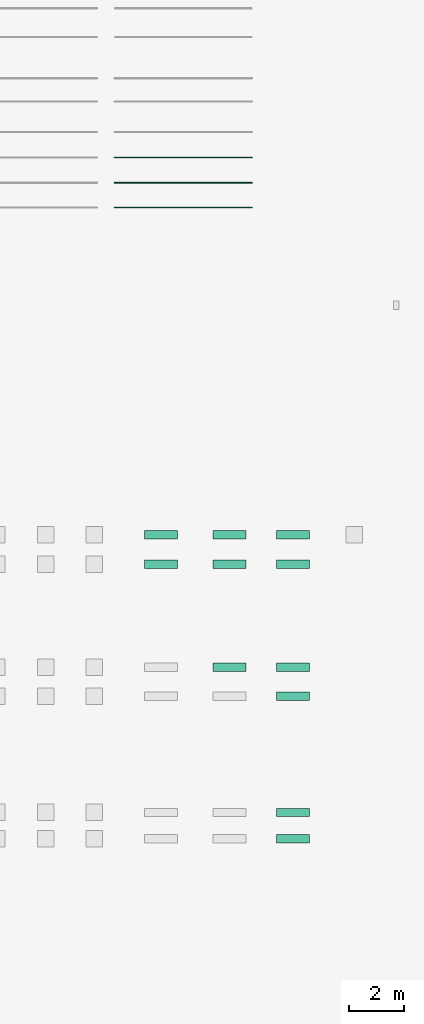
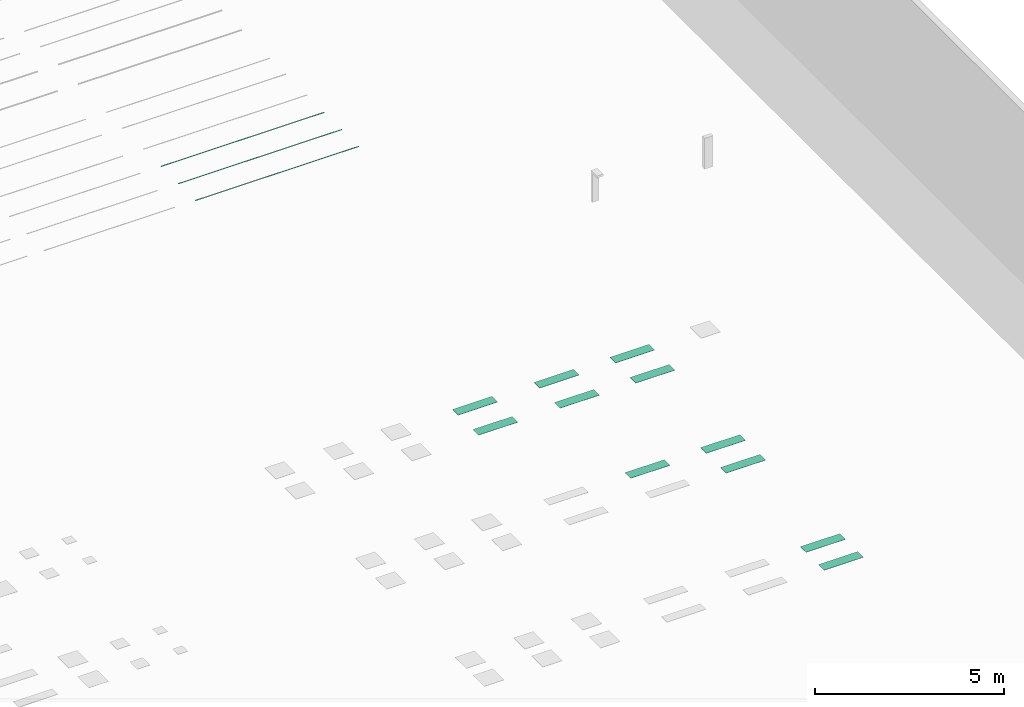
# One storey, part 9 of 197: 14 flow terminals.
"""IFC2X3 building model written with IfcOpenShell, lengths in metres."""

import ifcopenshell
import ifcopenshell.guid

model = None  # the IFC model being written
_history = None  # IfcOwnerHistory: only IFC2X3 demands one
_inside = {}  # id of a spatial element -> (the spatial element, [elements in it])
_under = {}  # id of a project, library or spatial element -> (it, [spatial elements below it])
_declared = {}  # id of a project -> (the project, [libraries it declares])
_typed = {}  # id of a type object -> (the type object, [elements of that type])
_made_of = {}  # id of a material, layer set ... -> (it, [elements and type objects made of it])


def new_model(schema):
    """Start an empty IFC model of exactly this schema.

    Asked for "IFC4X3", IfcOpenShell would pick the latest addendum, in which some entities
    have other attributes; the version numbers below select the first issue.
    IFC2X3 requires an IfcOwnerHistory on every rooted entity: one is made here for all.
    """
    global model, _history
    if schema == "IFC4X3":
        model = ifcopenshell.file(schema_version=(4, 3, 0, 0))
    else:
        model = ifcopenshell.file(schema=schema)
    _inside.clear()
    _under.clear()
    _declared.clear()
    _typed.clear()
    _made_of.clear()
    _history = None
    if model.schema == "IFC2X3":
        org = make("IfcOrganization", Name="unknown")
        user = make(
            "IfcPersonAndOrganization",
            ThePerson=make("IfcPerson", FamilyName="unknown"),
            TheOrganization=org,
        )
        app = make(
            "IfcApplication",
            ApplicationDeveloper=org,
            Version="unknown",
            ApplicationFullName="unknown",
            ApplicationIdentifier="unknown",
        )
        _history = make(
            "IfcOwnerHistory",
            OwningUser=user,
            OwningApplication=app,
            ChangeAction="ADDED",
            CreationDate=0,
        )
    return model


def make(cls, **values):
    """One entity of the class cls with the attributes given. An attribute that is None is left unset."""
    return model.create_entity(
        cls, **{name: value for name, value in values.items() if value is not None}
    )


def entity(cls, *values):
    """Any entity or typed value of the class cls, its attributes in the order of the schema. None: left unset."""
    e = model.create_entity(cls)
    for i, value in enumerate(values):
        if value is not None:
            e[i] = value
    return e


def rooted(cls, **values):
    """An entity with a GlobalId (a new one), such as an element, a storey or a relation."""
    return make(cls, GlobalId=ifcopenshell.guid.new(), OwnerHistory=_history, **values)


def si_unit(unit_type, name, prefix=None):
    """IfcSIUnit, for example si_unit("LENGTHUNIT", "METRE", prefix="MILLI")."""
    return make("IfcSIUnit", UnitType=unit_type, Prefix=prefix, Name=name)


def converted_unit(unit_type, name, factor, base, dimensions=None, offset=None):
    """IfcConversionBasedUnit, such as the inch: factor (a typed value) times the base unit."""
    return make(
        "IfcConversionBasedUnit"
        if offset is None
        else "IfcConversionBasedUnitWithOffset",
        ConversionOffset=offset,
        Dimensions=None
        if dimensions is None
        else entity("IfcDimensionalExponents", *dimensions),
        UnitType=unit_type,
        Name=name,
        ConversionFactor=make(
            "IfcMeasureWithUnit", ValueComponent=factor, UnitComponent=base
        ),
    )


def assignment(units):
    """IfcUnitAssignment: the units of a project."""
    return None if units is None else make("IfcUnitAssignment", Units=units)


def point(xyz):
    """IfcCartesianPoint."""
    return None if xyz is None else make("IfcCartesianPoint", Coordinates=xyz)


def direction(xyz):
    """IfcDirection."""
    return None if xyz is None else make("IfcDirection", DirectionRatios=xyz)


def frame(location, z_axis=None, x_axis=None):
    """IfcAxis2Placement3D, a coordinate frame: its origin and axes. An axis left out is left unset."""
    return make(
        "IfcAxis2Placement3D",
        Location=point(location),
        Axis=direction(z_axis),
        RefDirection=direction(x_axis),
    )


def frame_2d(location, x_axis=None):
    """IfcAxis2Placement2D, a coordinate frame in the plane: its origin and x axis."""
    return make(
        "IfcAxis2Placement2D", Location=point(location), RefDirection=direction(x_axis)
    )


def origin():
    """The frame at (0, 0, 0) with its axes left unset."""
    return frame((0.0, 0.0, 0.0))


def origin_2d_with_axis():
    """The frame at (0, 0) in the plane with the x axis (1, 0) written out."""
    return frame_2d((0.0, 0.0), x_axis=(1.0, 0.0))


def place(relative_to, where):
    """IfcLocalPlacement: puts the frame where relative to a parent placement (None: the world)."""
    return make(
        "IfcLocalPlacement", PlacementRelTo=relative_to, RelativePlacement=where
    )


def context(
    kind, dimensions, precision=None, world=None, true_north=None, identifier=None
):
    """IfcGeometricRepresentationContext, for example the 3D "Model" context."""
    return make(
        "IfcGeometricRepresentationContext",
        ContextIdentifier=identifier,
        ContextType=kind,
        CoordinateSpaceDimension=dimensions,
        Precision=precision,
        WorldCoordinateSystem=world,
        TrueNorth=true_north,
    )


def subcontext(parent, identifier, kind, view, scale=None):
    """IfcGeometricRepresentationSubContext, for example "Body" below "Model"."""
    return make(
        "IfcGeometricRepresentationSubContext",
        ContextIdentifier=identifier,
        ContextType=kind,
        ParentContext=parent,
        TargetScale=scale,
        TargetView=view,
    )


def project(units=None, contexts=None):
    """IfcProject with its units and contexts."""
    return rooted(
        "IfcProject",
        Name="project",
        RepresentationContexts=contexts,
        UnitsInContext=assignment(units),
    )


def spatial(cls, under=None, at=None, **own):
    """A site, building, storey or space (cls), placed at a placement, below another one or the project."""
    s = rooted(cls, ObjectPlacement=at, **own)
    if under is not None:
        _under.setdefault(under.id(), (under, []))[1].append(s)
    return s


def polyline(points):
    """IfcPolyline through the points."""
    return make("IfcPolyline", Points=[point(p) for p in points])


def profile(cls, at=None, kind="AREA", **sizes):
    """A parametric profile (cls). Its sizes go by their IFC names, for example OverallWidth=200.0."""
    return make(cls, ProfileType=kind, Position=at, **sizes)


def rectangle(**sizes):
    """IfcRectangleProfileDef."""
    return profile("IfcRectangleProfileDef", **sizes)


def circle(**sizes):
    """IfcCircleProfileDef."""
    return profile("IfcCircleProfileDef", **sizes)


def outline(outer, holes=None, kind="AREA"):
    """IfcArbitraryClosedProfileDef: a profile drawn as a closed curve; with holes, ...WithVoids."""
    if holes is None:
        return make("IfcArbitraryClosedProfileDef", ProfileType=kind, OuterCurve=outer)
    return make(
        "IfcArbitraryProfileDefWithVoids",
        ProfileType=kind,
        OuterCurve=outer,
        InnerCurves=holes,
    )


def extrude(swept, where, along, depth):
    """IfcExtrudedAreaSolid: the profile swept, set in the frame where, extruded along a direction by depth."""
    return make(
        "IfcExtrudedAreaSolid",
        SweptArea=swept,
        Position=where,
        ExtrudedDirection=direction(along),
        Depth=depth,
    )


def shape(context_of_items, identifier, shape_type, items):
    """IfcShapeRepresentation: the items that make up one representation, for example the "Body"."""
    return make(
        "IfcShapeRepresentation",
        ContextOfItems=context_of_items,
        RepresentationIdentifier=identifier,
        RepresentationType=shape_type,
        Items=items,
    )


def source(mapping_origin, context_of_items, identifier, shape_type, items):
    """IfcRepresentationMap: a shape defined once, which mapped items show again and again."""
    return make(
        "IfcRepresentationMap",
        MappingOrigin=mapping_origin,
        MappedRepresentation=shape(context_of_items, identifier, shape_type, items),
    )


def transform(
    local_origin,
    x_axis=None,
    y_axis=None,
    z_axis=None,
    scale=None,
    scale2=None,
    scale3=None,
    uniform=True,
):
    """IfcCartesianTransformationOperator3D, or its non-uniform kind. x_axis, y_axis, z_axis: its Axis1, 2, 3."""
    if uniform:
        return make(
            "IfcCartesianTransformationOperator3D",
            Axis1=direction(x_axis),
            Axis2=direction(y_axis),
            LocalOrigin=point(local_origin),
            Scale=scale,
            Axis3=direction(z_axis),
        )
    return make(
        "IfcCartesianTransformationOperator3DnonUniform",
        Axis1=direction(x_axis),
        Axis2=direction(y_axis),
        LocalOrigin=point(local_origin),
        Scale=scale,
        Axis3=direction(z_axis),
        Scale2=scale2,
        Scale3=scale3,
    )


def mapped(mapping_source, mapping_target):
    """IfcMappedItem: shows the shape of a source again, moved by a transform."""
    return make(
        "IfcMappedItem", MappingSource=mapping_source, MappingTarget=mapping_target
    )


def material(Name=None, Category=None):
    """IfcMaterial."""
    return make("IfcMaterial", Name=Name, Category=Category)


def material_list(materials):
    """IfcMaterialList."""
    return make("IfcMaterialList", Materials=materials)


def made_of(thing, what):
    """Note that an element or type object is made of a material, layer set ...; save() writes the relation."""
    if what is not None:
        _made_of.setdefault(what.id(), (what, []))[1].append(thing)
    return thing


def type_object(cls, material=None, **own):
    """A type object (cls), such as IfcWallType, which elements share."""
    return made_of(rooted(cls, **own), material)


def type_shapes(of_type, sources):
    """Give a type object the sources (RepresentationMaps) that its elements show as mapped items."""
    of_type.RepresentationMaps = sources


def element(
    cls,
    number,
    at=None,
    inside=None,
    cuts=None,
    type_object=None,
    material=None,
    context=None,
    identifier="Body",
    shape_type=None,
    held_by="IfcProductDefinitionShape",
    body=None,
    shapes=None,
    **own,
):
    """One element of the class cls, such as IfcWall. Its Tag is "e" and its number.

    at: its placement. inside: the storey or other place that contains it. cuts: it is an
    opening in that element (IfcRelVoidsElement). A single representation is given by context,
    identifier, shape_type and body (its items); several are given by shapes. held_by: the class
    of the entity that holds the representations. save() writes the other relations.
    """
    e = rooted(cls, Tag="e%d" % number, ObjectPlacement=at, **own)
    if body is not None:
        shapes = [shape(context, identifier, shape_type, body)]
    if shapes is not None:
        e.Representation = make(held_by, Representations=shapes)
    if inside is not None:
        _inside.setdefault(inside.id(), (inside, []))[1].append(e)
    if cuts is not None:
        rooted(
            "IfcRelVoidsElement", RelatingBuildingElement=cuts, RelatedOpeningElement=e
        )
    if type_object is not None:
        _typed.setdefault(type_object.id(), (type_object, []))[1].append(e)
    return made_of(e, material)


def aggregate(whole, parts):
    """IfcRelAggregates: a whole, such as a stair, and the parts it consists of."""
    return rooted("IfcRelAggregates", RelatingObject=whole, RelatedObjects=parts)


def save(model, path):
    """Write the relations noted so far, then the file.

    IfcRelAggregates (storeys below a building ...), IfcRelContainedInSpatialStructure (elements
    in a storey), IfcRelDefinesByType, IfcRelAssociatesMaterial and IfcRelDeclares: one each for
    every whole, place, type object, material and project.
    """
    for whole, parts in _under.values():
        aggregate(whole, parts)
    for where, things in _inside.values():
        rooted(
            "IfcRelContainedInSpatialStructure",
            RelatedElements=things,
            RelatingStructure=where,
        )
    for kind, things in _typed.values():
        rooted("IfcRelDefinesByType", RelatedObjects=things, RelatingType=kind)
    for what, things in _made_of.values():
        rooted("IfcRelAssociatesMaterial", RelatedObjects=things, RelatingMaterial=what)
    for by, libraries in _declared.values():
        rooted("IfcRelDeclares", RelatingContext=by, RelatedDefinitions=libraries)
    model.write(path)


model = new_model("IFC2X3")

# Units and contexts
model_context = context("Model", 3, precision=1e-05, world=origin(), true_north=direction((6.123031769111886e-17, 1.0)))
body_context = subcontext(model_context, "Body", "Model", "MODEL_VIEW")
ifc_project = project(units=[si_unit("LENGTHUNIT", "METRE"), converted_unit("PLANEANGLEUNIT", "DEGREE", entity("IfcPlaneAngleMeasure", 0.017453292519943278), si_unit("PLANEANGLEUNIT", "RADIAN"), dimensions=[0, 0, 0, 0, 0, 0, 0]), si_unit("AREAUNIT", "SQUARE_METRE")], contexts=[model_context])

# Site, building, storey
site_placement = place(None, origin())
site = spatial("IfcSite", under=ifc_project, at=site_placement, Name="Default", CompositionType="ELEMENT")
building_placement = place(site_placement, origin())
building = spatial("IfcBuilding", under=site, at=building_placement, CompositionType="ELEMENT")
storey_placement = place(building_placement, origin())
storey = spatial("IfcBuildingStorey", under=building, at=storey_placement, Name="Niveau 0", CompositionType="ELEMENT", Elevation=0.0)

# Flow terminals
ifc_material_1 = material(Name="BETCE-DIFFUSEUR-BLANC")
ifc_material_2 = material(Name="<Unnamed>")
ifc_material_list_1 = material_list([ifc_material_1, ifc_material_2])
light_fixture_type_1 = type_object("IfcLightFixtureType", Name="Profilé alu sailli_suspendu_engravure-20X20:PROF-SUSPENDU DALI -5M", PredefinedType="NOTDEFINED", material=ifc_material_list_1)
shared_shape_1 = source(origin(), body_context, "Body", "SweptSolid", [
    extrude(rectangle(XDim=4.9959999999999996, YDim=0.018935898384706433, at=origin_2d_with_axis()), frame((0.0, 0.0, 1.4999999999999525), z_axis=(0.0, 0.0, 1.0), x_axis=(-1.0, 0.0, 0.0)), (0.0, 0.0, 1.0), 0.0008000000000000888),
    extrude(outline(polyline([(0.004349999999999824, -0.009467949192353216), (0.0051499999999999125, -0.009467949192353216), (0.0051499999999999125, 0.009467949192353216), (0.004349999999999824, 0.009467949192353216), (0.004349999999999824, 0.010467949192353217), (-0.0138500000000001, 0.010467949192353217), (-0.0138500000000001, -0.010467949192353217), (0.004349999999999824, -0.010467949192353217), (0.004349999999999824, -0.009467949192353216)])), frame((2.4979999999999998, 0.0, 1.5051499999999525), z_axis=(1.0, 0.0, 0.0), x_axis=(0.0, 0.0, -1.0)), (0.0, 0.0, 1.0), 0.0020000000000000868),
    extrude(outline(polyline([(0.009467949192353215, -0.004349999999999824), (0.010467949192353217, -0.004349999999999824), (0.010467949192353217, 0.0138500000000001), (-0.010467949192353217, 0.0138500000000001), (-0.010467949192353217, -0.004349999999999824), (-0.009467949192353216, -0.004349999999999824), (-0.009467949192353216, -0.0051499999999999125), (0.009467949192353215, -0.0051499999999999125), (0.009467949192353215, -0.004349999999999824)])), frame((-2.4999999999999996, 0.0, 1.5051499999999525), z_axis=(1.0, 0.0, 0.0), x_axis=(0.0, 1.0, 0.0)), (0.0, 0.0, 1.0), 0.0020000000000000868),
    extrude(outline(polyline([(-0.012292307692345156, -0.011500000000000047), (0.007707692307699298, -0.011500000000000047), (0.007707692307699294, -0.009467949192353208), (0.0069076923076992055, -0.009467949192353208), (0.006907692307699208, -0.010467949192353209), (-0.011292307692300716, -0.010467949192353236), (-0.011292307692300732, 0.0), (-0.011292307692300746, 0.010467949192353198), (0.006907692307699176, 0.010467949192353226), (0.006907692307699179, 0.009467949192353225), (0.0077076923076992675, 0.009467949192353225), (0.007707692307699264, 0.011500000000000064), (-0.012292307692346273, 0.011500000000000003), (-0.012292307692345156, -0.011500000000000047)])), frame((-2.4999999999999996, 0.0, 1.5077076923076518), z_axis=(1.0, 0.0, 0.0), x_axis=(0.0, 0.0, -1.0)), (0.0, 0.0, 1.0), 4.999999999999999),
    extrude(circle(Radius=0.0019999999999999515, at=frame_2d((1.5388467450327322e-29, 0.0), x_axis=(1.0, 0.0))), frame((-2.3999999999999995, 0.0, 1.5199999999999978), z_axis=(0.0, 0.0, 1.0), x_axis=(0.0, -1.0, 0.0)), (0.0, 0.0, 1.0), 0.0010000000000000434),
    extrude(circle(Radius=0.0019999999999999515, at=frame_2d((-4.123551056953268e-20, 0.0), x_axis=(1.0, 0.0))), frame((2.4, 0.0, 1.5199999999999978), z_axis=(0.0, 0.0, 1.0), x_axis=(0.0, -1.0, 0.0)), (0.0, 0.0, 1.0), 0.0010000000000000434),
])
type_shapes(light_fixture_type_1, [shared_shape_1])
flow_terminal_1_placement = place(storey_placement, frame((-518.3697105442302, 61.41235524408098, 0.0)))
element("IfcFlowTerminal", 1, at=flow_terminal_1_placement, inside=storey, type_object=light_fixture_type_1, material=ifc_material_list_1, Name="Profilé alu sailli_suspendu_engravure-20X20:PROF-SUSPENDU DALI -5M", ObjectType="Profilé alu sailli_suspendu_engravure-20X20:PROF-SUSPENDU DALI -5M", context=body_context, shape_type="MappedRepresentation", body=[
    mapped(shared_shape_1, transform((0.0, 0.0, 0.0), scale=1.0)),
])
light_fixture_type_2 = type_object("IfcLightFixtureType", Name="Profilé alu sailli_suspendu_engravure-20X20:PROF-ENGRAVURE -5M", PredefinedType="NOTDEFINED", material=ifc_material_list_1)
shared_shape_2 = source(origin(), body_context, "Body", "SweptSolid", [
    extrude(rectangle(XDim=4.9959999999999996, YDim=0.018935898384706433, at=origin_2d_with_axis()), frame((0.0, 0.0, 1.4999999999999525), z_axis=(0.0, 0.0, 1.0), x_axis=(-1.0, 0.0, 0.0)), (0.0, 0.0, 1.0), 0.0008000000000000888),
    extrude(outline(polyline([(0.004349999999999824, -0.009467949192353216), (0.0051499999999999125, -0.009467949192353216), (0.0051499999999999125, 0.009467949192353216), (0.004349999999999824, 0.009467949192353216), (0.004349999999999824, 0.010467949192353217), (-0.0138500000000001, 0.010467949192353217), (-0.0138500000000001, -0.010467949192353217), (0.004349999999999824, -0.010467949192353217), (0.004349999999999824, -0.009467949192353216)])), frame((2.4979999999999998, 0.0, 1.5051499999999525), z_axis=(1.0, 0.0, 0.0), x_axis=(0.0, 0.0, -1.0)), (0.0, 0.0, 1.0), 0.0020000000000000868),
    extrude(outline(polyline([(0.009467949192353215, -0.004349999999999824), (0.010467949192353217, -0.004349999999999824), (0.010467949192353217, 0.0138500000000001), (-0.010467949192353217, 0.0138500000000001), (-0.010467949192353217, -0.004349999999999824), (-0.009467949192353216, -0.004349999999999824), (-0.009467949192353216, -0.0051499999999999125), (0.009467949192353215, -0.0051499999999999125), (0.009467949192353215, -0.004349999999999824)])), frame((-2.4999999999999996, 0.0, 1.5051499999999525), z_axis=(1.0, 0.0, 0.0), x_axis=(0.0, 1.0, 0.0)), (0.0, 0.0, 1.0), 0.0020000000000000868),
    extrude(outline(polyline([(-0.012292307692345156, -0.011500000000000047), (0.007707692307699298, -0.011500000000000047), (0.007707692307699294, -0.009467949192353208), (0.0069076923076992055, -0.009467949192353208), (0.006907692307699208, -0.010467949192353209), (-0.011292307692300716, -0.010467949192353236), (-0.011292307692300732, 0.0), (-0.011292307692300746, 0.010467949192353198), (0.006907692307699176, 0.010467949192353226), (0.006907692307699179, 0.009467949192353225), (0.0077076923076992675, 0.009467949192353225), (0.007707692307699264, 0.011500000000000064), (-0.012292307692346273, 0.011500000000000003), (-0.012292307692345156, -0.011500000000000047)])), frame((-2.4999999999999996, 0.0, 1.5077076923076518), z_axis=(1.0, 0.0, 0.0), x_axis=(0.0, 0.0, -1.0)), (0.0, 0.0, 1.0), 4.999999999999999),
    extrude(circle(Radius=0.0019999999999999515, at=frame_2d((1.5388467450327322e-29, 0.0), x_axis=(1.0, 0.0))), frame((-2.3999999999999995, 0.0, 1.5199999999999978), z_axis=(0.0, 0.0, 1.0), x_axis=(0.0, -1.0, 0.0)), (0.0, 0.0, 1.0), 0.0010000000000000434),
    extrude(circle(Radius=0.0019999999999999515, at=frame_2d((-4.123551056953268e-20, 0.0), x_axis=(1.0, 0.0))), frame((2.4, 0.0, 1.5199999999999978), z_axis=(0.0, 0.0, 1.0), x_axis=(0.0, -1.0, 0.0)), (0.0, 0.0, 1.0), 0.0010000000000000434),
])
type_shapes(light_fixture_type_2, [shared_shape_2])
flow_terminal_2_placement = place(storey_placement, frame((-518.3697105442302, 60.49435524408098, 0.0)))
element("IfcFlowTerminal", 2, at=flow_terminal_2_placement, inside=storey, type_object=light_fixture_type_2, material=ifc_material_list_1, Name="Profilé alu sailli_suspendu_engravure-20X20:PROF-ENGRAVURE -5M", ObjectType="Profilé alu sailli_suspendu_engravure-20X20:PROF-ENGRAVURE -5M", context=body_context, shape_type="MappedRepresentation", body=[
    mapped(shared_shape_2, transform((0.0, 0.0, 0.0), scale=1.0)),
])
light_fixture_type_3 = type_object("IfcLightFixtureType", Name="Profilé alu sailli_suspendu_engravure-20X20:PROF-ENGRAVURE DALI -5M", PredefinedType="NOTDEFINED", material=ifc_material_list_1)
shared_shape_3 = source(origin(), body_context, "Body", "SweptSolid", [
    extrude(rectangle(XDim=4.9959999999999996, YDim=0.018935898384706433, at=origin_2d_with_axis()), frame((0.0, 0.0, 1.4999999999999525), z_axis=(0.0, 0.0, 1.0), x_axis=(-1.0, 0.0, 0.0)), (0.0, 0.0, 1.0), 0.0008000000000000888),
    extrude(outline(polyline([(0.004349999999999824, -0.009467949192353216), (0.0051499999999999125, -0.009467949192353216), (0.0051499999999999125, 0.009467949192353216), (0.004349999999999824, 0.009467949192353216), (0.004349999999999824, 0.010467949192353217), (-0.0138500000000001, 0.010467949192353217), (-0.0138500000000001, -0.010467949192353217), (0.004349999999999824, -0.010467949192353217), (0.004349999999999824, -0.009467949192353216)])), frame((2.4979999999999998, 0.0, 1.5051499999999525), z_axis=(1.0, 0.0, 0.0), x_axis=(0.0, 0.0, -1.0)), (0.0, 0.0, 1.0), 0.0020000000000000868),
    extrude(outline(polyline([(0.009467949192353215, -0.004349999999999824), (0.010467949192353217, -0.004349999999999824), (0.010467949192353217, 0.0138500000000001), (-0.010467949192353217, 0.0138500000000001), (-0.010467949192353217, -0.004349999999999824), (-0.009467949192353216, -0.004349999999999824), (-0.009467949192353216, -0.0051499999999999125), (0.009467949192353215, -0.0051499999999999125), (0.009467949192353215, -0.004349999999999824)])), frame((-2.4999999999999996, 0.0, 1.5051499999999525), z_axis=(1.0, 0.0, 0.0), x_axis=(0.0, 1.0, 0.0)), (0.0, 0.0, 1.0), 0.0020000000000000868),
    extrude(outline(polyline([(-0.012292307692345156, -0.011500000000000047), (0.007707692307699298, -0.011500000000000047), (0.007707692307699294, -0.009467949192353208), (0.0069076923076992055, -0.009467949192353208), (0.006907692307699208, -0.010467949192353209), (-0.011292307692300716, -0.010467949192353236), (-0.011292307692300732, 0.0), (-0.011292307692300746, 0.010467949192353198), (0.006907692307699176, 0.010467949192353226), (0.006907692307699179, 0.009467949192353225), (0.0077076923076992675, 0.009467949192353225), (0.007707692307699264, 0.011500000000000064), (-0.012292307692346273, 0.011500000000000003), (-0.012292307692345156, -0.011500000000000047)])), frame((-2.4999999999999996, 0.0, 1.5077076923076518), z_axis=(1.0, 0.0, 0.0), x_axis=(0.0, 0.0, -1.0)), (0.0, 0.0, 1.0), 4.999999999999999),
    extrude(circle(Radius=0.0019999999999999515, at=frame_2d((1.5388467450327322e-29, 0.0), x_axis=(1.0, 0.0))), frame((-2.3999999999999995, 0.0, 1.5199999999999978), z_axis=(0.0, 0.0, 1.0), x_axis=(0.0, -1.0, 0.0)), (0.0, 0.0, 1.0), 0.0010000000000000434),
    extrude(circle(Radius=0.0019999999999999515, at=frame_2d((-4.123551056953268e-20, 0.0), x_axis=(1.0, 0.0))), frame((2.4, 0.0, 1.5199999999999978), z_axis=(0.0, 0.0, 1.0), x_axis=(0.0, -1.0, 0.0)), (0.0, 0.0, 1.0), 0.0010000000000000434),
])
type_shapes(light_fixture_type_3, [shared_shape_3])
flow_terminal_3_placement = place(storey_placement, frame((-518.3697105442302, 59.59735524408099, 0.0)))
element("IfcFlowTerminal", 3, at=flow_terminal_3_placement, inside=storey, type_object=light_fixture_type_3, material=ifc_material_list_1, Name="Profilé alu sailli_suspendu_engravure-20X20:PROF-ENGRAVURE DALI -5M", ObjectType="Profilé alu sailli_suspendu_engravure-20X20:PROF-ENGRAVURE DALI -5M", context=body_context, shape_type="MappedRepresentation", body=[
    mapped(shared_shape_3, transform((0.0, 0.0, 0.0), scale=1.0)),
])
ifc_material_3 = material(Name="BETCE-ENVELOPPE-BLANC")
ifc_material_list_2 = material_list([ifc_material_2, ifc_material_1, ifc_material_3])
light_fixture_type_4 = type_object("IfcLightFixtureType", Name="Pavé LED lentille encastré_saillie_suspendu:ENCASTRE - 1200X300 - 1L DE 16", PredefinedType="NOTDEFINED", material=ifc_material_list_2)
shared_shape_4 = source(origin(), body_context, "Body", "SweptSolid", [
    extrude(circle(Radius=0.0014999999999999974, at=origin_2d_with_axis()), frame((0.5899999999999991, -0.14000000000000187, 1.51)), (0.0, 0.0, 1.0), 0.0010000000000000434),
    extrude(circle(Radius=0.0014999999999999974, at=origin_2d_with_axis()), frame((0.5899999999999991, 0.13999999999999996, 1.51)), (0.0, 0.0, 1.0), 0.0010000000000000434),
    extrude(circle(Radius=0.0014999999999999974, at=origin_2d_with_axis()), frame((-0.59, 0.13999999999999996, 1.51)), (0.0, 0.0, 1.0), 0.0010000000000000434),
    extrude(circle(Radius=0.0014999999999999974, at=origin_2d_with_axis()), frame((-0.59, -0.14000000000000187, 1.51)), (0.0, 0.0, 1.0), 0.0010000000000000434),
    extrude(rectangle(XDim=1.16, YDim=0.26, at=origin_2d_with_axis()), frame((0.0, 0.0, 1.5013367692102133), z_axis=(0.0, 0.0, 1.0), x_axis=(-1.0, 0.0, 0.0)), (0.0, 0.0, 1.0), 0.008663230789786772),
    extrude(outline(polyline([(-0.6, -0.15), (0.6, -0.15), (0.6, 0.15), (-0.6, 0.15), (-0.6, -0.15)]), holes=[polyline([(0.58, -0.13), (-0.5800000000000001, -0.13), (-0.5800000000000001, 0.13), (0.58, 0.13), (0.58, -0.13)])]), frame((0.0, 0.0, 1.499999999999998), z_axis=(0.0, 0.0, 1.0), x_axis=(-1.0, 0.0, 0.0)), (0.0, 0.0, 1.0), 0.010000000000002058),
])
type_shapes(light_fixture_type_4, [shared_shape_4])
flow_terminal_4_placement = place(storey_placement, frame((-519.1857105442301, 47.699573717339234, 0.0)))
element("IfcFlowTerminal", 4, at=flow_terminal_4_placement, inside=storey, type_object=light_fixture_type_4, material=ifc_material_list_2, Name="Pavé LED lentille encastré_saillie_suspendu:ENCASTRE - 1200X300 - 1L DE 16", ObjectType="Pavé LED lentille encastré_saillie_suspendu:ENCASTRE - 1200X300 - 1L DE 16", context=body_context, shape_type="MappedRepresentation", body=[
    mapped(shared_shape_4, transform((0.0, 0.0, 0.0), scale=1.0)),
])
light_fixture_type_5 = type_object("IfcLightFixtureType", Name="Pavé LED lentille encastré_saillie_suspendu:ENCASTRE - 1200X300 - 2L DE 8", PredefinedType="NOTDEFINED", material=ifc_material_list_2)
shared_shape_5 = source(origin(), body_context, "Body", "SweptSolid", [
    extrude(circle(Radius=0.0014999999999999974, at=origin_2d_with_axis()), frame((0.5899999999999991, -0.14000000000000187, 1.51)), (0.0, 0.0, 1.0), 0.0010000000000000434),
    extrude(circle(Radius=0.0014999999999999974, at=origin_2d_with_axis()), frame((0.5899999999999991, 0.13999999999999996, 1.51)), (0.0, 0.0, 1.0), 0.0010000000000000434),
    extrude(circle(Radius=0.0014999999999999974, at=origin_2d_with_axis()), frame((-0.59, 0.13999999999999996, 1.51)), (0.0, 0.0, 1.0), 0.0010000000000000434),
    extrude(circle(Radius=0.0014999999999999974, at=origin_2d_with_axis()), frame((-0.59, -0.14000000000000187, 1.51)), (0.0, 0.0, 1.0), 0.0010000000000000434),
    extrude(rectangle(XDim=1.16, YDim=0.26, at=origin_2d_with_axis()), frame((0.0, 0.0, 1.5013367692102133), z_axis=(0.0, 0.0, 1.0), x_axis=(-1.0, 0.0, 0.0)), (0.0, 0.0, 1.0), 0.008663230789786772),
    extrude(outline(polyline([(-0.6, -0.15), (0.6, -0.15), (0.6, 0.15), (-0.6, 0.15), (-0.6, -0.15)]), holes=[polyline([(0.58, -0.13), (-0.5800000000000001, -0.13), (-0.5800000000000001, 0.13), (0.58, 0.13), (0.58, -0.13)])]), frame((0.0, 0.0, 1.499999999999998), z_axis=(0.0, 0.0, 1.0), x_axis=(-1.0, 0.0, 0.0)), (0.0, 0.0, 1.0), 0.010000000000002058),
])
type_shapes(light_fixture_type_5, [shared_shape_5])
flow_terminal_5_placement = place(storey_placement, frame((-516.6957105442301, 47.699573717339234, 0.0)))
element("IfcFlowTerminal", 5, at=flow_terminal_5_placement, inside=storey, type_object=light_fixture_type_5, material=ifc_material_list_2, Name="Pavé LED lentille encastré_saillie_suspendu:ENCASTRE - 1200X300 - 2L DE 8", ObjectType="Pavé LED lentille encastré_saillie_suspendu:ENCASTRE - 1200X300 - 2L DE 8", context=body_context, shape_type="MappedRepresentation", body=[
    mapped(shared_shape_5, transform((0.0, 0.0, 0.0), scale=1.0)),
])
light_fixture_type_6 = type_object("IfcLightFixtureType", Name="Pavé LED lentille encastré_saillie_suspendu:ENCASTRE - 1200X300 - 2L DE 16", PredefinedType="NOTDEFINED", material=ifc_material_list_2)
shared_shape_6 = source(origin(), body_context, "Body", "SweptSolid", [
    extrude(circle(Radius=0.0014999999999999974, at=origin_2d_with_axis()), frame((0.5899999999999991, -0.14000000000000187, 1.51)), (0.0, 0.0, 1.0), 0.0010000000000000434),
    extrude(circle(Radius=0.0014999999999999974, at=origin_2d_with_axis()), frame((0.5899999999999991, 0.13999999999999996, 1.51)), (0.0, 0.0, 1.0), 0.0010000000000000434),
    extrude(circle(Radius=0.0014999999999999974, at=origin_2d_with_axis()), frame((-0.59, 0.13999999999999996, 1.51)), (0.0, 0.0, 1.0), 0.0010000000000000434),
    extrude(circle(Radius=0.0014999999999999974, at=origin_2d_with_axis()), frame((-0.59, -0.14000000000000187, 1.51)), (0.0, 0.0, 1.0), 0.0010000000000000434),
    extrude(rectangle(XDim=1.16, YDim=0.26, at=origin_2d_with_axis()), frame((0.0, 0.0, 1.5013367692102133), z_axis=(0.0, 0.0, 1.0), x_axis=(-1.0, 0.0, 0.0)), (0.0, 0.0, 1.0), 0.008663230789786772),
    extrude(outline(polyline([(-0.6, -0.15), (0.6, -0.15), (0.6, 0.15), (-0.6, 0.15), (-0.6, -0.15)]), holes=[polyline([(0.58, -0.13), (-0.5800000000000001, -0.13), (-0.5800000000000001, 0.13), (0.58, 0.13), (0.58, -0.13)])]), frame((0.0, 0.0, 1.499999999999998), z_axis=(0.0, 0.0, 1.0), x_axis=(-1.0, 0.0, 0.0)), (0.0, 0.0, 1.0), 0.010000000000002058),
])
type_shapes(light_fixture_type_6, [shared_shape_6])
flow_terminal_6_placement = place(storey_placement, frame((-514.3817105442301, 47.699573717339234, 0.0)))
element("IfcFlowTerminal", 6, at=flow_terminal_6_placement, inside=storey, type_object=light_fixture_type_6, material=ifc_material_list_2, Name="Pavé LED lentille encastré_saillie_suspendu:ENCASTRE - 1200X300 - 2L DE 16", ObjectType="Pavé LED lentille encastré_saillie_suspendu:ENCASTRE - 1200X300 - 2L DE 16", context=body_context, shape_type="MappedRepresentation", body=[
    mapped(shared_shape_6, transform((0.0, 0.0, 0.0), scale=1.0)),
])
light_fixture_type_7 = type_object("IfcLightFixtureType", Name="Pavé LED lentille encastré_saillie_suspendu:ENCASTRE DALI - 1200X300 - 1L DE 16", PredefinedType="NOTDEFINED", material=ifc_material_list_2)
shared_shape_7 = source(origin(), body_context, "Body", "SweptSolid", [
    extrude(circle(Radius=0.0014999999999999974, at=origin_2d_with_axis()), frame((0.5899999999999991, -0.14000000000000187, 1.51)), (0.0, 0.0, 1.0), 0.0010000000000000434),
    extrude(circle(Radius=0.0014999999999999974, at=origin_2d_with_axis()), frame((0.5899999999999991, 0.13999999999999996, 1.51)), (0.0, 0.0, 1.0), 0.0010000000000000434),
    extrude(circle(Radius=0.0014999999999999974, at=origin_2d_with_axis()), frame((-0.59, 0.13999999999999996, 1.51)), (0.0, 0.0, 1.0), 0.0010000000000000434),
    extrude(circle(Radius=0.0014999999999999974, at=origin_2d_with_axis()), frame((-0.59, -0.14000000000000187, 1.51)), (0.0, 0.0, 1.0), 0.0010000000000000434),
    extrude(rectangle(XDim=1.16, YDim=0.26, at=origin_2d_with_axis()), frame((0.0, 0.0, 1.5013367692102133), z_axis=(0.0, 0.0, 1.0), x_axis=(-1.0, 0.0, 0.0)), (0.0, 0.0, 1.0), 0.008663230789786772),
    extrude(outline(polyline([(-0.6, -0.15), (0.6, -0.15), (0.6, 0.15), (-0.6, 0.15), (-0.6, -0.15)]), holes=[polyline([(0.58, -0.13), (-0.5800000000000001, -0.13), (-0.5800000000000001, 0.13), (0.58, 0.13), (0.58, -0.13)])]), frame((0.0, 0.0, 1.499999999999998), z_axis=(0.0, 0.0, 1.0), x_axis=(-1.0, 0.0, 0.0)), (0.0, 0.0, 1.0), 0.010000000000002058),
])
type_shapes(light_fixture_type_7, [shared_shape_7])
flow_terminal_7_placement = place(storey_placement, frame((-519.1857105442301, 46.627355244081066, 0.0)))
element("IfcFlowTerminal", 7, at=flow_terminal_7_placement, inside=storey, type_object=light_fixture_type_7, material=ifc_material_list_2, Name="Pavé LED lentille encastré_saillie_suspendu:ENCASTRE DALI - 1200X300 - 1L DE 16", ObjectType="Pavé LED lentille encastré_saillie_suspendu:ENCASTRE DALI - 1200X300 - 1L DE 16", context=body_context, shape_type="MappedRepresentation", body=[
    mapped(shared_shape_7, transform((0.0, 0.0, 0.0), scale=1.0)),
])
light_fixture_type_8 = type_object("IfcLightFixtureType", Name="Pavé LED lentille encastré_saillie_suspendu:ENCASTRE DALI - 1200X300 - 2L DE 8", PredefinedType="NOTDEFINED", material=ifc_material_list_2)
shared_shape_8 = source(origin(), body_context, "Body", "SweptSolid", [
    extrude(circle(Radius=0.0014999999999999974, at=origin_2d_with_axis()), frame((0.5899999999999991, -0.14000000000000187, 1.51)), (0.0, 0.0, 1.0), 0.0010000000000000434),
    extrude(circle(Radius=0.0014999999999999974, at=origin_2d_with_axis()), frame((0.5899999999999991, 0.13999999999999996, 1.51)), (0.0, 0.0, 1.0), 0.0010000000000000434),
    extrude(circle(Radius=0.0014999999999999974, at=origin_2d_with_axis()), frame((-0.59, 0.13999999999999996, 1.51)), (0.0, 0.0, 1.0), 0.0010000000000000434),
    extrude(circle(Radius=0.0014999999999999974, at=origin_2d_with_axis()), frame((-0.59, -0.14000000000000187, 1.51)), (0.0, 0.0, 1.0), 0.0010000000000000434),
    extrude(rectangle(XDim=1.16, YDim=0.26, at=origin_2d_with_axis()), frame((0.0, 0.0, 1.5013367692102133), z_axis=(0.0, 0.0, 1.0), x_axis=(-1.0, 0.0, 0.0)), (0.0, 0.0, 1.0), 0.008663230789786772),
    extrude(outline(polyline([(-0.6, -0.15), (0.6, -0.15), (0.6, 0.15), (-0.6, 0.15), (-0.6, -0.15)]), holes=[polyline([(0.58, -0.13), (-0.5800000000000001, -0.13), (-0.5800000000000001, 0.13), (0.58, 0.13), (0.58, -0.13)])]), frame((0.0, 0.0, 1.499999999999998), z_axis=(0.0, 0.0, 1.0), x_axis=(-1.0, 0.0, 0.0)), (0.0, 0.0, 1.0), 0.010000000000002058),
])
type_shapes(light_fixture_type_8, [shared_shape_8])
flow_terminal_8_placement = place(storey_placement, frame((-516.6957105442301, 46.627355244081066, 0.0)))
element("IfcFlowTerminal", 8, at=flow_terminal_8_placement, inside=storey, type_object=light_fixture_type_8, material=ifc_material_list_2, Name="Pavé LED lentille encastré_saillie_suspendu:ENCASTRE DALI - 1200X300 - 2L DE 8", ObjectType="Pavé LED lentille encastré_saillie_suspendu:ENCASTRE DALI - 1200X300 - 2L DE 8", context=body_context, shape_type="MappedRepresentation", body=[
    mapped(shared_shape_8, transform((0.0, 0.0, 0.0), scale=1.0)),
])
light_fixture_type_9 = type_object("IfcLightFixtureType", Name="Pavé LED lentille encastré_saillie_suspendu:ENCASTRE DALI - 1200X300 - 2L DE 16", PredefinedType="NOTDEFINED", material=ifc_material_list_2)
shared_shape_9 = source(origin(), body_context, "Body", "SweptSolid", [
    extrude(circle(Radius=0.0014999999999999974, at=origin_2d_with_axis()), frame((0.5899999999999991, -0.14000000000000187, 1.51)), (0.0, 0.0, 1.0), 0.0010000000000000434),
    extrude(circle(Radius=0.0014999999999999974, at=origin_2d_with_axis()), frame((0.5899999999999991, 0.13999999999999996, 1.51)), (0.0, 0.0, 1.0), 0.0010000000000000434),
    extrude(circle(Radius=0.0014999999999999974, at=origin_2d_with_axis()), frame((-0.59, 0.13999999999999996, 1.51)), (0.0, 0.0, 1.0), 0.0010000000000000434),
    extrude(circle(Radius=0.0014999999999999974, at=origin_2d_with_axis()), frame((-0.59, -0.14000000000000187, 1.51)), (0.0, 0.0, 1.0), 0.0010000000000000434),
    extrude(rectangle(XDim=1.16, YDim=0.26, at=origin_2d_with_axis()), frame((0.0, 0.0, 1.5013367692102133), z_axis=(0.0, 0.0, 1.0), x_axis=(-1.0, 0.0, 0.0)), (0.0, 0.0, 1.0), 0.008663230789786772),
    extrude(outline(polyline([(-0.6, -0.15), (0.6, -0.15), (0.6, 0.15), (-0.6, 0.15), (-0.6, -0.15)]), holes=[polyline([(0.58, -0.13), (-0.5800000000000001, -0.13), (-0.5800000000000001, 0.13), (0.58, 0.13), (0.58, -0.13)])]), frame((0.0, 0.0, 1.499999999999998), z_axis=(0.0, 0.0, 1.0), x_axis=(-1.0, 0.0, 0.0)), (0.0, 0.0, 1.0), 0.010000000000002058),
])
type_shapes(light_fixture_type_9, [shared_shape_9])
flow_terminal_9_placement = place(storey_placement, frame((-514.3817105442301, 46.627355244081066, 0.0)))
element("IfcFlowTerminal", 9, at=flow_terminal_9_placement, inside=storey, type_object=light_fixture_type_9, material=ifc_material_list_2, Name="Pavé LED lentille encastré_saillie_suspendu:ENCASTRE DALI - 1200X300 - 2L DE 16", ObjectType="Pavé LED lentille encastré_saillie_suspendu:ENCASTRE DALI - 1200X300 - 2L DE 16", context=body_context, shape_type="MappedRepresentation", body=[
    mapped(shared_shape_9, transform((0.0, 0.0, 0.0), scale=1.0)),
])
light_fixture_type_10 = type_object("IfcLightFixtureType", Name="Pavé LED lentille encastré_saillie_suspendu:SAILLIE - 1200X300 - 2L DE 8", PredefinedType="NOTDEFINED", material=ifc_material_list_2)
shared_shape_10 = source(origin(), body_context, "Body", "SweptSolid", [
    extrude(circle(Radius=0.0014999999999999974, at=origin_2d_with_axis()), frame((0.5899999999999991, -0.14000000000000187, 1.51)), (0.0, 0.0, 1.0), 0.0010000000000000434),
    extrude(circle(Radius=0.0014999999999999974, at=origin_2d_with_axis()), frame((0.5899999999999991, 0.13999999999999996, 1.51)), (0.0, 0.0, 1.0), 0.0010000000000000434),
    extrude(circle(Radius=0.0014999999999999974, at=origin_2d_with_axis()), frame((-0.59, 0.13999999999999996, 1.51)), (0.0, 0.0, 1.0), 0.0010000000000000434),
    extrude(circle(Radius=0.0014999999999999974, at=origin_2d_with_axis()), frame((-0.59, -0.14000000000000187, 1.51)), (0.0, 0.0, 1.0), 0.0010000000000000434),
    extrude(rectangle(XDim=1.16, YDim=0.26, at=origin_2d_with_axis()), frame((0.0, 0.0, 1.5013367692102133), z_axis=(0.0, 0.0, 1.0), x_axis=(-1.0, 0.0, 0.0)), (0.0, 0.0, 1.0), 0.008663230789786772),
    extrude(outline(polyline([(-0.6, -0.15), (0.6, -0.15), (0.6, 0.15), (-0.6, 0.15), (-0.6, -0.15)]), holes=[polyline([(0.58, -0.13), (-0.5800000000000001, -0.13), (-0.5800000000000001, 0.13), (0.58, 0.13), (0.58, -0.13)])]), frame((0.0, 0.0, 1.499999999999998), z_axis=(0.0, 0.0, 1.0), x_axis=(-1.0, 0.0, 0.0)), (0.0, 0.0, 1.0), 0.010000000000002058),
])
type_shapes(light_fixture_type_10, [shared_shape_10])
flow_terminal_10_placement = place(storey_placement, frame((-516.6957105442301, 42.89135524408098, 0.0)))
element("IfcFlowTerminal", 10, at=flow_terminal_10_placement, inside=storey, type_object=light_fixture_type_10, material=ifc_material_list_2, Name="Pavé LED lentille encastré_saillie_suspendu:SAILLIE - 1200X300 - 2L DE 8", ObjectType="Pavé LED lentille encastré_saillie_suspendu:SAILLIE - 1200X300 - 2L DE 8", context=body_context, shape_type="MappedRepresentation", body=[
    mapped(shared_shape_10, transform((0.0, 0.0, 0.0), scale=1.0)),
])
light_fixture_type_11 = type_object("IfcLightFixtureType", Name="Pavé LED lentille encastré_saillie_suspendu:SAILLIE - 1200X300 - 2L DE 16", PredefinedType="NOTDEFINED", material=ifc_material_list_2)
shared_shape_11 = source(origin(), body_context, "Body", "SweptSolid", [
    extrude(circle(Radius=0.0014999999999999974, at=origin_2d_with_axis()), frame((0.5899999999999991, -0.14000000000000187, 1.51)), (0.0, 0.0, 1.0), 0.0010000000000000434),
    extrude(circle(Radius=0.0014999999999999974, at=origin_2d_with_axis()), frame((0.5899999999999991, 0.13999999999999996, 1.51)), (0.0, 0.0, 1.0), 0.0010000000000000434),
    extrude(circle(Radius=0.0014999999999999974, at=origin_2d_with_axis()), frame((-0.59, 0.13999999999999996, 1.51)), (0.0, 0.0, 1.0), 0.0010000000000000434),
    extrude(circle(Radius=0.0014999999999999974, at=origin_2d_with_axis()), frame((-0.59, -0.14000000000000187, 1.51)), (0.0, 0.0, 1.0), 0.0010000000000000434),
    extrude(rectangle(XDim=1.16, YDim=0.26, at=origin_2d_with_axis()), frame((0.0, 0.0, 1.5013367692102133), z_axis=(0.0, 0.0, 1.0), x_axis=(-1.0, 0.0, 0.0)), (0.0, 0.0, 1.0), 0.008663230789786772),
    extrude(outline(polyline([(-0.6, -0.15), (0.6, -0.15), (0.6, 0.15), (-0.6, 0.15), (-0.6, -0.15)]), holes=[polyline([(0.58, -0.13), (-0.5800000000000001, -0.13), (-0.5800000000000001, 0.13), (0.58, 0.13), (0.58, -0.13)])]), frame((0.0, 0.0, 1.499999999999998), z_axis=(0.0, 0.0, 1.0), x_axis=(-1.0, 0.0, 0.0)), (0.0, 0.0, 1.0), 0.010000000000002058),
])
type_shapes(light_fixture_type_11, [shared_shape_11])
flow_terminal_11_placement = place(storey_placement, frame((-514.3817105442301, 42.89135524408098, 0.0)))
element("IfcFlowTerminal", 11, at=flow_terminal_11_placement, inside=storey, type_object=light_fixture_type_11, material=ifc_material_list_2, Name="Pavé LED lentille encastré_saillie_suspendu:SAILLIE - 1200X300 - 2L DE 16", ObjectType="Pavé LED lentille encastré_saillie_suspendu:SAILLIE - 1200X300 - 2L DE 16", context=body_context, shape_type="MappedRepresentation", body=[
    mapped(shared_shape_11, transform((0.0, 0.0, 0.0), scale=1.0)),
])
light_fixture_type_12 = type_object("IfcLightFixtureType", Name="Pavé LED lentille encastré_saillie_suspendu:SAILLIE DALI - 1200X300 - 2L DE 16", PredefinedType="NOTDEFINED", material=ifc_material_list_2)
shared_shape_12 = source(origin(), body_context, "Body", "SweptSolid", [
    extrude(circle(Radius=0.0014999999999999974, at=origin_2d_with_axis()), frame((0.5899999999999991, -0.14000000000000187, 1.51)), (0.0, 0.0, 1.0), 0.0010000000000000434),
    extrude(circle(Radius=0.0014999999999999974, at=origin_2d_with_axis()), frame((0.5899999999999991, 0.13999999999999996, 1.51)), (0.0, 0.0, 1.0), 0.0010000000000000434),
    extrude(circle(Radius=0.0014999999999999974, at=origin_2d_with_axis()), frame((-0.59, 0.13999999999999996, 1.51)), (0.0, 0.0, 1.0), 0.0010000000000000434),
    extrude(circle(Radius=0.0014999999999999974, at=origin_2d_with_axis()), frame((-0.59, -0.14000000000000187, 1.51)), (0.0, 0.0, 1.0), 0.0010000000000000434),
    extrude(rectangle(XDim=1.16, YDim=0.26, at=origin_2d_with_axis()), frame((0.0, 0.0, 1.5013367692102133), z_axis=(0.0, 0.0, 1.0), x_axis=(-1.0, 0.0, 0.0)), (0.0, 0.0, 1.0), 0.008663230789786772),
    extrude(outline(polyline([(-0.6, -0.15), (0.6, -0.15), (0.6, 0.15), (-0.6, 0.15), (-0.6, -0.15)]), holes=[polyline([(0.58, -0.13), (-0.5800000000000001, -0.13), (-0.5800000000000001, 0.13), (0.58, 0.13), (0.58, -0.13)])]), frame((0.0, 0.0, 1.499999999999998), z_axis=(0.0, 0.0, 1.0), x_axis=(-1.0, 0.0, 0.0)), (0.0, 0.0, 1.0), 0.010000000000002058),
])
type_shapes(light_fixture_type_12, [shared_shape_12])
flow_terminal_12_placement = place(storey_placement, frame((-514.3817105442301, 41.83535524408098, 0.0)))
element("IfcFlowTerminal", 12, at=flow_terminal_12_placement, inside=storey, type_object=light_fixture_type_12, material=ifc_material_list_2, Name="Pavé LED lentille encastré_saillie_suspendu:SAILLIE DALI - 1200X300 - 2L DE 16", ObjectType="Pavé LED lentille encastré_saillie_suspendu:SAILLIE DALI - 1200X300 - 2L DE 16", context=body_context, shape_type="MappedRepresentation", body=[
    mapped(shared_shape_12, transform((0.0, 0.0, 0.0), scale=1.0)),
])
light_fixture_type_13 = type_object("IfcLightFixtureType", Name="Pavé LED lentille encastré_saillie_suspendu:SUSPENDU - 1200X300 - 2L DE 16", PredefinedType="NOTDEFINED", material=ifc_material_list_2)
shared_shape_13 = source(origin(), body_context, "Body", "SweptSolid", [
    extrude(circle(Radius=0.0014999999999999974, at=origin_2d_with_axis()), frame((0.5899999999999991, -0.14000000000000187, 1.51)), (0.0, 0.0, 1.0), 0.0010000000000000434),
    extrude(circle(Radius=0.0014999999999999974, at=origin_2d_with_axis()), frame((0.5899999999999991, 0.13999999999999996, 1.51)), (0.0, 0.0, 1.0), 0.0010000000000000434),
    extrude(circle(Radius=0.0014999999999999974, at=origin_2d_with_axis()), frame((-0.59, 0.13999999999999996, 1.51)), (0.0, 0.0, 1.0), 0.0010000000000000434),
    extrude(circle(Radius=0.0014999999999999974, at=origin_2d_with_axis()), frame((-0.59, -0.14000000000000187, 1.51)), (0.0, 0.0, 1.0), 0.0010000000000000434),
    extrude(rectangle(XDim=1.16, YDim=0.26, at=origin_2d_with_axis()), frame((0.0, 0.0, 1.5013367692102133), z_axis=(0.0, 0.0, 1.0), x_axis=(-1.0, 0.0, 0.0)), (0.0, 0.0, 1.0), 0.008663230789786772),
    extrude(outline(polyline([(-0.6, -0.15), (0.6, -0.15), (0.6, 0.15), (-0.6, 0.15), (-0.6, -0.15)]), holes=[polyline([(0.58, -0.13), (-0.5800000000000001, -0.13), (-0.5800000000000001, 0.13), (0.58, 0.13), (0.58, -0.13)])]), frame((0.0, 0.0, 1.499999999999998), z_axis=(0.0, 0.0, 1.0), x_axis=(-1.0, 0.0, 0.0)), (0.0, 0.0, 1.0), 0.010000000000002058),
])
type_shapes(light_fixture_type_13, [shared_shape_13])
flow_terminal_13_placement = place(storey_placement, frame((-514.3817105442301, 37.61435524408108, 0.0)))
element("IfcFlowTerminal", 13, at=flow_terminal_13_placement, inside=storey, type_object=light_fixture_type_13, material=ifc_material_list_2, Name="Pavé LED lentille encastré_saillie_suspendu:SUSPENDU - 1200X300 - 2L DE 16", ObjectType="Pavé LED lentille encastré_saillie_suspendu:SUSPENDU - 1200X300 - 2L DE 16", context=body_context, shape_type="MappedRepresentation", body=[
    mapped(shared_shape_13, transform((0.0, 0.0, 0.0), scale=1.0)),
])
light_fixture_type_14 = type_object("IfcLightFixtureType", Name="Pavé LED lentille encastré_saillie_suspendu:SUSPENDU DALI - 1200X300 - 2L DE 16", PredefinedType="NOTDEFINED", material=ifc_material_list_2)
shared_shape_14 = source(origin(), body_context, "Body", "SweptSolid", [
    extrude(circle(Radius=0.0014999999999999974, at=origin_2d_with_axis()), frame((0.5899999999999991, -0.14000000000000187, 1.51)), (0.0, 0.0, 1.0), 0.0010000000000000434),
    extrude(circle(Radius=0.0014999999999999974, at=origin_2d_with_axis()), frame((0.5899999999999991, 0.13999999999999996, 1.51)), (0.0, 0.0, 1.0), 0.0010000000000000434),
    extrude(circle(Radius=0.0014999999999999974, at=origin_2d_with_axis()), frame((-0.59, 0.13999999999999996, 1.51)), (0.0, 0.0, 1.0), 0.0010000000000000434),
    extrude(circle(Radius=0.0014999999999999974, at=origin_2d_with_axis()), frame((-0.59, -0.14000000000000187, 1.51)), (0.0, 0.0, 1.0), 0.0010000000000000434),
    extrude(rectangle(XDim=1.16, YDim=0.26, at=origin_2d_with_axis()), frame((0.0, 0.0, 1.5013367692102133), z_axis=(0.0, 0.0, 1.0), x_axis=(-1.0, 0.0, 0.0)), (0.0, 0.0, 1.0), 0.008663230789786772),
    extrude(outline(polyline([(-0.6, -0.15), (0.6, -0.15), (0.6, 0.15), (-0.6, 0.15), (-0.6, -0.15)]), holes=[polyline([(0.58, -0.13), (-0.5800000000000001, -0.13), (-0.5800000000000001, 0.13), (0.58, 0.13), (0.58, -0.13)])]), frame((0.0, 0.0, 1.499999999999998), z_axis=(0.0, 0.0, 1.0), x_axis=(-1.0, 0.0, 0.0)), (0.0, 0.0, 1.0), 0.010000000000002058),
])
type_shapes(light_fixture_type_14, [shared_shape_14])
flow_terminal_14_placement = place(storey_placement, frame((-514.3817105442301, 36.65835524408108, 0.0)))
element("IfcFlowTerminal", 14, at=flow_terminal_14_placement, inside=storey, type_object=light_fixture_type_14, material=ifc_material_list_2, Name="Pavé LED lentille encastré_saillie_suspendu:SUSPENDU DALI - 1200X300 - 2L DE 16", ObjectType="Pavé LED lentille encastré_saillie_suspendu:SUSPENDU DALI - 1200X300 - 2L DE 16", context=body_context, shape_type="MappedRepresentation", body=[
    mapped(shared_shape_14, transform((0.0, 0.0, 0.0), scale=1.0)),
])

save(model, "model.ifc")
